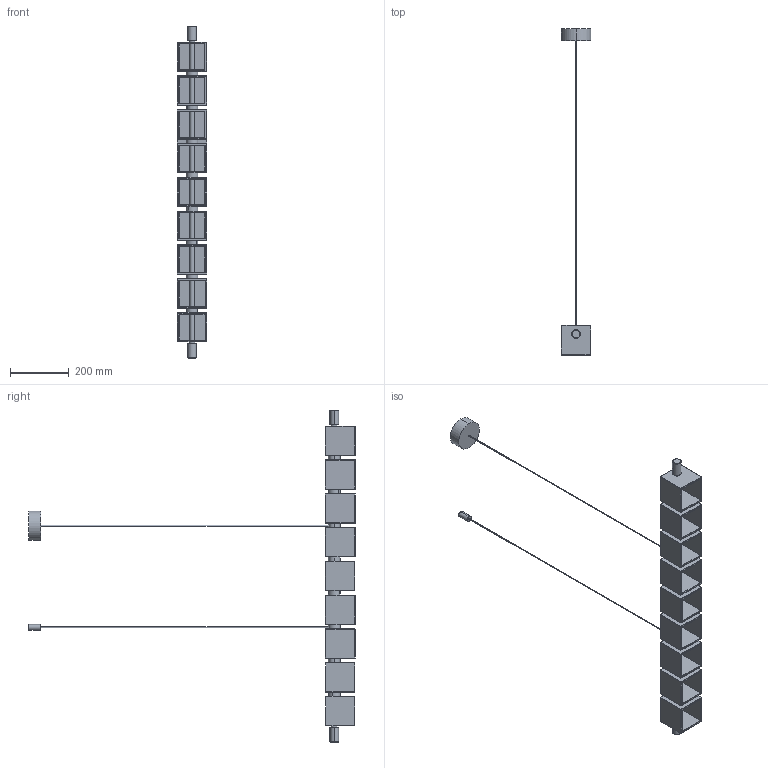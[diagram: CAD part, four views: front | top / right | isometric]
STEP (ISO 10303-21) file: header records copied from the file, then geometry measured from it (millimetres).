
FILE_DESCRIPTION (( 'STEP AP214' ), '1' );
FILE_NAME ('CUBIC_C1344_L.STEP', '2025-09-05T08:34:26', ( '' ), ( '' ), 'SwSTEP 2.0', 'SolidWorks 2018', '' );
FILE_SCHEMA (( 'AUTOMOTIVE_DESIGN' ));
Length unit declared in the file: millimetre
Products named in the file (1): CUBIC_C1344_L
Bounding box: 101.97 x 1110.98 x 1130 mm (x, y, z)
Volume: 3148501.7 mm3; surface area: 996889.1 mm2
Topology: 42 solids, 42 shells, 587 faces, 1250 edges, 700 vertices
Faces by surface type: cylinder 330, plane 181, sphere 72, torus 4
Entity records: 22196 total; most frequent: DIRECTION 2914, CARTESIAN_POINT 2574, ORIENTED_EDGE 2356, AXIS2_PLACEMENT_3D 1184, EDGE_CURVE 1178, VERTEX_POINT 700, EDGE_LOOP 700, UNCERTAINTY_MEASURE_WITH_UNIT 631
